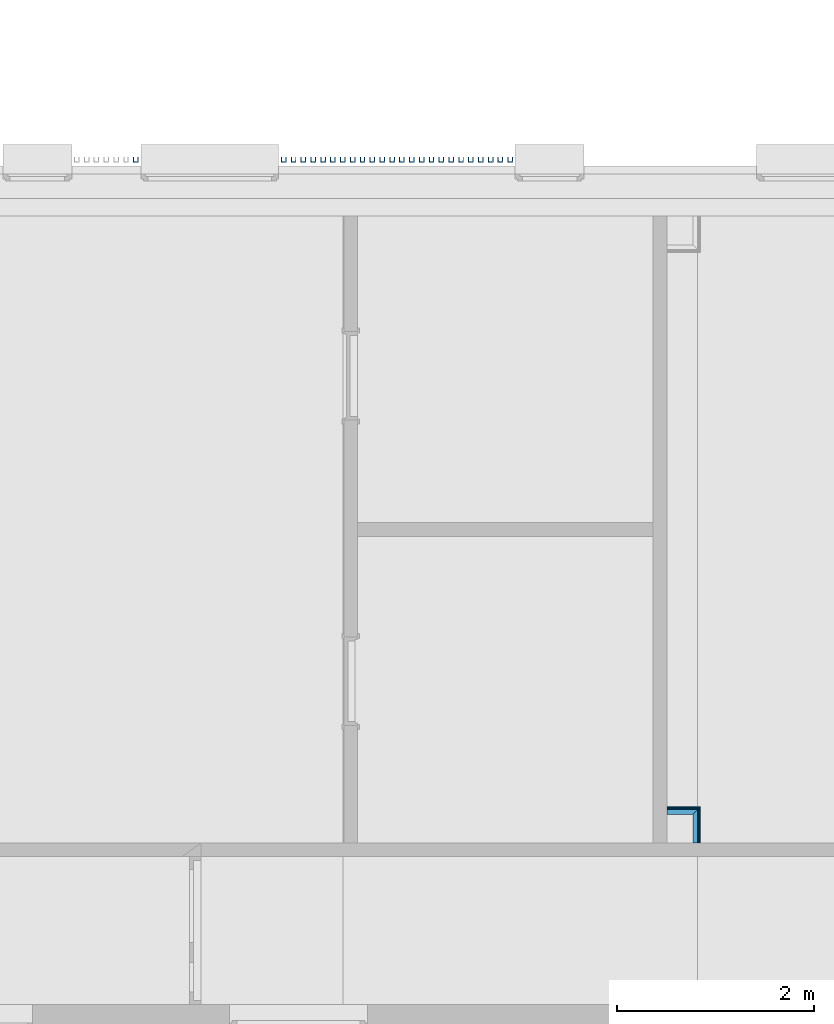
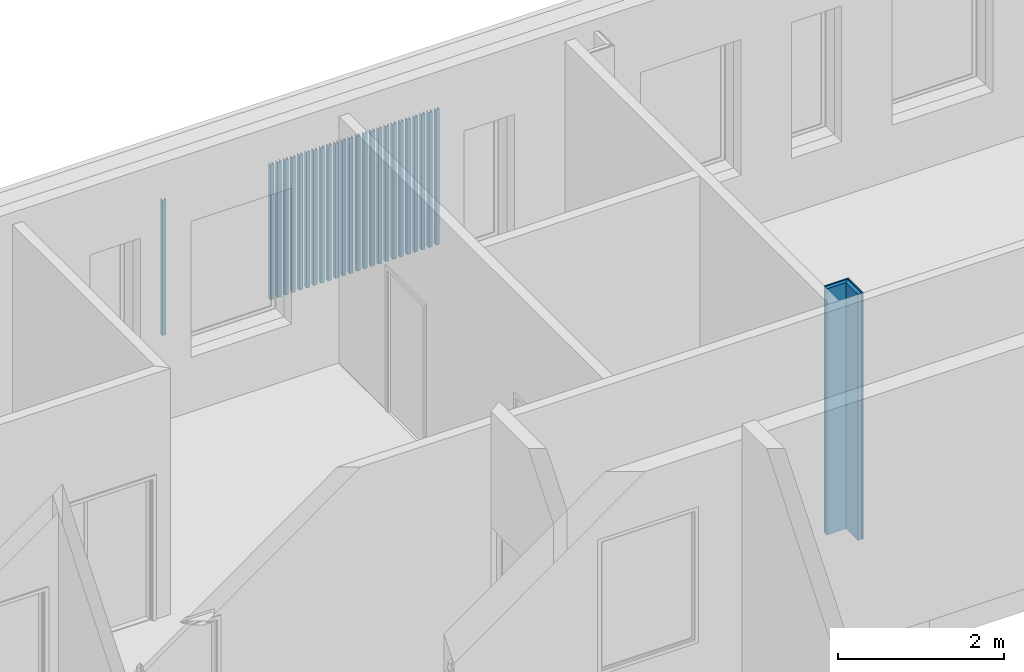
# One storey, part 24 of 100: 25 discrete accessories, 6 building element parts, 2 elements without a shape of their own.
"""IFC2X3 building model written with IfcOpenShell, lengths in millimetres."""

from ifc_helpers import new_model, entity, si_unit, converted_unit, derived_unit, money_unit, direction, frame, origin_with_axes, place, context, subcontext, project, spatial, polyline, outline, extrude, faceted_brep, source, transform, mapped, material, type_object, element, aggregate, save


model = new_model("IFC2X3")

# Units and contexts
model_context = context("Model", 3, precision=0.01, world=origin_with_axes(), true_north=direction((0.0, 1.0)))
body_context = subcontext(model_context, "Body", "Model", "MODEL_VIEW")
ifc_project = project(units=[si_unit("LENGTHUNIT", "METRE", prefix="MILLI"), si_unit("AREAUNIT", "SQUARE_METRE"), si_unit("VOLUMEUNIT", "CUBIC_METRE"), converted_unit("PLANEANGLEUNIT", "DEGREE", entity("IfcPlaneAngleMeasure", 0.0174532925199), si_unit("PLANEANGLEUNIT", "RADIAN"), dimensions=[0, 0, 0, 0, 0, 0, 0]), si_unit("SOLIDANGLEUNIT", "STERADIAN"), money_unit("EUR"), converted_unit("TIMEUNIT", "Year", entity("IfcTimeMeasure", 31556926.0), si_unit("TIMEUNIT", "SECOND"), dimensions=[0, 0, 1, 0, 0, 0, 0]), si_unit("MASSUNIT", "GRAM", prefix="KILO"), si_unit("THERMODYNAMICTEMPERATUREUNIT", "DEGREE_CELSIUS"), si_unit("LUMINOUSINTENSITYUNIT", "LUMEN"), si_unit("ENERGYUNIT", "JOULE", prefix="MEGA"), derived_unit("THERMALCONDUCTANCEUNIT", [(si_unit("POWERUNIT", "WATT"), 1), (si_unit("LENGTHUNIT", "METRE"), -1), (si_unit("THERMODYNAMICTEMPERATUREUNIT", "KELVIN"), -1)]), derived_unit("SPECIFICHEATCAPACITYUNIT", [(si_unit("ENERGYUNIT", "JOULE"), 1), (si_unit("MASSUNIT", "GRAM", prefix="KILO"), -1), (si_unit("THERMODYNAMICTEMPERATUREUNIT", "KELVIN"), -1)]), derived_unit("MASSDENSITYUNIT", [(si_unit("MASSUNIT", "GRAM", prefix="KILO"), 1), (si_unit("VOLUMEUNIT", "CUBIC_METRE"), -1)])], contexts=[model_context])

# Site, building, storey
site_placement = place(None, origin_with_axes())
site = spatial("IfcSite", under=ifc_project, at=site_placement, Name="Politse- ja Piirivalveameti ning Päästeameti ühishoone", CompositionType="ELEMENT")
building_placement = place(site_placement, origin_with_axes())
building = spatial("IfcBuilding", under=site, at=building_placement, Name="Politse- ja Piirivalveameti ning Päästeameti ühishoone", CompositionType="ELEMENT")
storey_placement = place(building_placement, frame((0.0, 0.0, 3800.0), z_axis=(0.0, 0.0, 1.0), x_axis=(1.0, 0.0, 0.0)))
storey = spatial("IfcBuildingStorey", under=building, at=storey_placement, Name="Teine korrus", CompositionType="ELEMENT", Elevation=3800.0)

# Discrete accessories
ifc_material_1 = material(Name="ET-05_Teras")
discrete_accessory_type = type_object("IfcDiscreteAccessoryType", Name="UAP Column 23")
shared_shape = source(origin_with_axes(), body_context, "Body", "Brep", [
    faceted_brep([(-25.0, -25.0, 0.0), (-25.0, -25.0, 1990.0), (-25.0, -20.0, 1990.0), (-25.0, -20.0, 0.0), (25.0, -25.0, 0.0), (25.0, -25.0, 1990.0), (25.0, 25.0, 1990.0), (-25.0, 25.0, 1990.0), (-25.0, 20.0, 1990.0), (8.5, 20.0, 1990.0), (14.25, 18.4592921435, 1990.0), (18.4592921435, 14.25, 1990.0), (20.0, 8.5, 1990.0), (20.0, -8.5, 1990.0), (18.4592921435, -14.25, 1990.0), (14.25, -18.4592921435, 1990.0), (8.5, -20.0, 1990.0), (8.5, -20.0, 0.0), (14.25, -18.4592921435, 0.0), (18.4592921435, -14.25, 0.0), (20.0, -8.5, 0.0), (20.0, 8.5, 0.0), (18.4592921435, 14.25, 0.0), (14.25, 18.4592921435, 0.0), (8.5, 20.0, 0.0), (-25.0, 20.0, 0.0), (-25.0, 25.0, 0.0), (25.0, 25.0, 0.0)], [[[0, 1, 2, 3]], [[4, 5, 1, 0]], [[1, 5, 6, 7, 8, 9, 10, 11, 12, 13, 14, 15, 16, 2]], [[3, 2, 16, 17]], [[0, 3, 17, 18, 19, 20, 21, 22, 23, 24, 25, 26, 27, 4]], [[27, 6, 5, 4]], [[26, 7, 6, 27]], [[25, 8, 7, 26]], [[24, 9, 8, 25]], [[23, 10, 9, 24]], [[22, 11, 10, 23]], [[21, 12, 11, 22]], [[20, 13, 12, 21]], [[19, 14, 13, 20]], [[18, 15, 14, 19]], [[17, 16, 15, 18]]]),
])
for number, where, z_axis, x_axis in (
    (1, (33209.0536198, 21574.5962075, 810.000049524), (0.0, 0.0, 1.0), (1.30049800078e-07, -1.0, 0.0)),
    (2, (33309.0536198, 21574.5962205, 810.000049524), (0.0, 0.0, 1.0), (1.30049800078e-07, -1.0, 0.0)),
    (3, (33409.0536198, 21574.5962336, 810.000049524), (0.0, 0.0, 1.0), (1.30049800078e-07, -1.0, 0.0)),
    (4, (32809.0536198, 21574.5961555, 810.000049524), (0.0, 0.0, 1.0), (1.30049800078e-07, -1.0, 0.0)),
    (5, (32909.0536198, 21574.5961685, 810.000049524), (0.0, 0.0, 1.0), (1.30049800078e-07, -1.0, 0.0)),
    (6, (33009.0536198, 21574.5961815, 810.000049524), (0.0, 0.0, 1.0), (1.30049800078e-07, -1.0, 0.0)),
    (7, (33109.0536198, 21574.5961945, 810.000049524), (0.0, 0.0, 1.0), (1.30049800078e-07, -1.0, 0.0)),
    (8, (32509.0536198, 21574.5961165, 810.000049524), (0.0, 0.0, 1.0), (1.30049800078e-07, -1.0, 0.0)),
    (9, (32609.0536198, 21574.5961295, 810.000049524), (0.0, 0.0, 1.0), (1.30049800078e-07, -1.0, 0.0)),
    (10, (32709.0536198, 21574.5961425, 810.000049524), (0.0, 0.0, 1.0), (1.30049800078e-07, -1.0, 0.0)),
    (11, (32209.0536198, 21574.5960775, 810.000049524), (0.0, 0.0, 1.0), (1.30049800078e-07, -1.0, 0.0)),
    (12, (32309.0536198, 21574.5960905, 810.000049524), (0.0, 0.0, 1.0), (1.30049800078e-07, -1.0, 0.0)),
    (13, (32409.0536198, 21574.5961035, 810.000049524), (0.0, 0.0, 1.0), (1.30049800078e-07, -1.0, 0.0)),
    (14, (31909.0536198, 21574.5960385, 810.000049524), (0.0, 0.0, 1.0), (1.30049800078e-07, -1.0, 0.0)),
    (15, (32009.0536198, 21574.5960515, 810.000049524), (0.0, 0.0, 1.0), (1.30049800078e-07, -1.0, 0.0)),
    (16, (32109.0536198, 21574.5960645, 810.000049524), (0.0, 0.0, 1.0), (1.30049800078e-07, -1.0, 0.0)),
    (17, (31709.0536198, 21574.5960125, 810.000049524), (0.0, 0.0, 1.0), (1.30049800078e-07, -1.0, 0.0)),
    (18, (31809.0536198, 21574.5960255, 810.000049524), (0.0, 0.0, 1.0), (1.30049800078e-07, -1.0, 0.0)),
    (19, (33509.0536198, 21574.5962466, 810.000049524), (0.0, 0.0, 1.0), (1.30049800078e-07, -1.0, 0.0)),
    (20, (31409.0536198, 21574.5959735, 810.000049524), (0.0, 0.0, 1.0), (1.30049800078e-07, -1.0, 0.0)),
    (21, (31509.0536198, 21574.5959865, 810.000049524), (0.0, 0.0, 1.0), (1.30049800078e-07, -1.0, 0.0)),
    (22, (31609.0536198, 21574.5959995, 810.000049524), (0.0, 0.0, 1.0), (1.30049800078e-07, -1.0, 0.0)),
    (23, (31209.0536198, 21574.5959474, 810.000049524), (0.0, 0.0, 1.0), (1.30049800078e-07, -1.0, 0.0)),
    (24, (31309.0536198, 21574.5959604, 810.000049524), (0.0, 0.0, 1.0), (1.30049800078e-07, -1.0, 0.0)),
    (25, (29708.8835834, 21574.5961555, 810.000049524), (0.0, 0.0, 1.0), (1.30049800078e-07, -1.0, 0.0)),
):
    element("IfcDiscreteAccessory", number, at=place(storey_placement, frame(where, z_axis=z_axis, x_axis=x_axis)), inside=storey, type_object=discrete_accessory_type, material=ifc_material_1, Name="Fassaadiribid", context=body_context, shape_type="MappedRepresentation", body=[
        mapped(shared_shape, transform((0.0, 0.0, 0.0))),
    ])

# Wall, building element parts
wall_type = type_object("IfcWallType", Name="SS-13_kergsein 75 ümber el-kilbi 75", PredefinedType="NOTDEFINED")
wall_1_placement = place(storey_placement, frame((35438.8458011, 15005.0421528, 0.0), z_axis=(0.0, 0.0, 1.0), x_axis=(-1.0, 0.0, 0.0)))
wall_1 = element("IfcWall", 26, at=wall_1_placement, inside=storey, type_object=wall_type, Name="SS-13")
ifc_material_2 = material(Name="Õhkvahe - Raam")
building_element_part_1_placement = place(wall_1_placement, origin_with_axes())
building_element_part_1 = element("IfcBuildingElementPart", 27, at=building_element_part_1_placement, material=ifc_material_2, Name="Õhkvahe - Raam", context=body_context, shape_type="SweptSolid", body=[
    extrude(outline(polyline([(25.0, 25.0), (339.13575157, 25.0), (339.13575157, 75.0), (75.0, 75.0), (25.0, 25.0)])), origin_with_axes(), (0.0, 0.0, 1.0), 3620.0),
])
ifc_material_3 = material(Name="SKR-02_Kipsplaat")
building_element_part_2_placement = place(wall_1_placement, origin_with_axes())
building_element_part_2 = element("IfcBuildingElementPart", 28, at=building_element_part_2_placement, material=ifc_material_3, Name="SKR-02_Kipsplaat", context=body_context, shape_type="SweptSolid", body=[
    extrude(outline(polyline([(12.0, 12.0), (339.13575157, 12.0), (339.13575157, 25.0), (25.0, 25.0), (12.0, 12.0)])), origin_with_axes(), (0.0, 0.0, 1.0), 3620.0),
])
building_element_part_3_placement = place(wall_1_placement, origin_with_axes())
building_element_part_3 = element("IfcBuildingElementPart", 29, at=building_element_part_3_placement, material=ifc_material_3, Name="SKR-02_Kipsplaat", context=body_context, shape_type="SweptSolid", body=[
    extrude(outline(polyline([(0.0, 0.0), (339.13575157, 0.0), (339.13575157, 12.0), (12.0, 12.0), (0.0, 0.0)])), origin_with_axes(), (0.0, 0.0, 1.0), 3620.0),
])
aggregate(wall_1, [building_element_part_1, building_element_part_2, building_element_part_3])

wall_2_placement = place(storey_placement, frame((35438.8458011, 15005.0421528, 0.0), z_axis=(0.0, 0.0, 1.0), x_axis=(0.0, -1.0, 0.0)))
wall_2 = element("IfcWall", 30, at=wall_2_placement, inside=storey, type_object=wall_type, Name="SS-13")
building_element_part_4_placement = place(wall_2_placement, origin_with_axes())
building_element_part_4 = element("IfcBuildingElementPart", 31, at=building_element_part_4_placement, material=ifc_material_2, Name="Õhkvahe - Raam", context=body_context, shape_type="SweptSolid", body=[
    extrude(outline(polyline([(75.0, -75.0), (365.0, -75.0), (365.0, -25.0), (25.0, -25.0), (75.0, -75.0)])), origin_with_axes(), (0.0, 0.0, 1.0), 3620.0),
])
building_element_part_5_placement = place(wall_2_placement, origin_with_axes())
building_element_part_5 = element("IfcBuildingElementPart", 32, at=building_element_part_5_placement, material=ifc_material_3, Name="SKR-02_Kipsplaat", context=body_context, shape_type="SweptSolid", body=[
    extrude(outline(polyline([(25.0, -25.0), (365.0, -25.0), (365.0, -12.0), (12.0, -12.0), (25.0, -25.0)])), origin_with_axes(), (0.0, 0.0, 1.0), 3620.0),
])
building_element_part_6_placement = place(wall_2_placement, origin_with_axes())
building_element_part_6 = element("IfcBuildingElementPart", 33, at=building_element_part_6_placement, material=ifc_material_3, Name="SKR-02_Kipsplaat", context=body_context, shape_type="SweptSolid", body=[
    extrude(outline(polyline([(12.0, -12.0), (365.0, -12.0), (365.0, 0.0), (0.0, 0.0), (12.0, -12.0)])), origin_with_axes(), (0.0, 0.0, 1.0), 3620.0),
])
aggregate(wall_2, [building_element_part_4, building_element_part_5, building_element_part_6])

save(model, "model.ifc")
